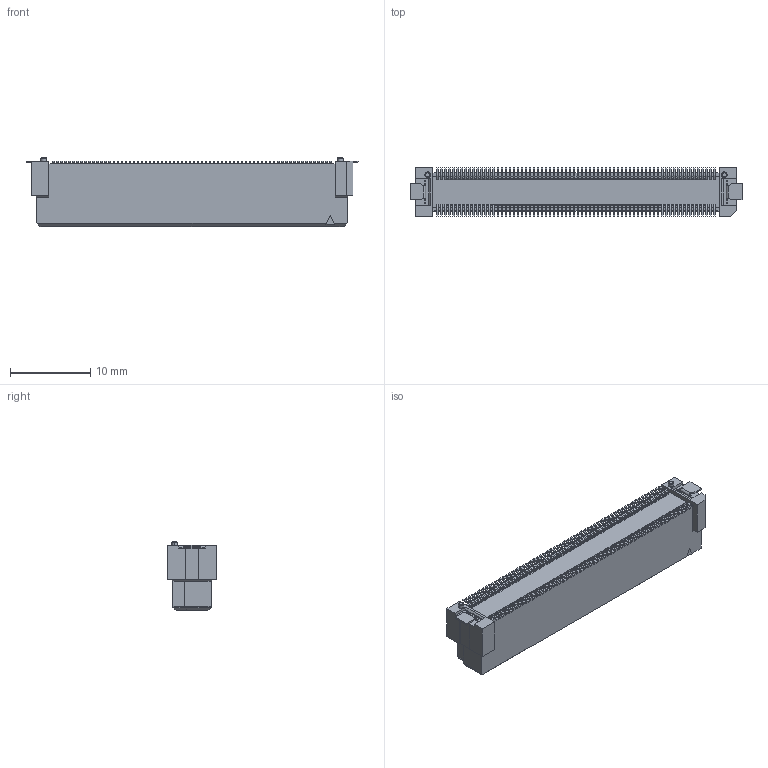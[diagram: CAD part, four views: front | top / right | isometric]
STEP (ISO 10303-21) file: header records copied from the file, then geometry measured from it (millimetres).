
FILE_DESCRIPTION(('Creo Elements/Direct Modeling STEP Export'),'2;1');
FILE_NAME('P3D070_DT11-140S-10-T.stp','2017-08-11T10:52:01',(''),(''),'Creo Elements/Direct Modeling STEP processor for AP214 (Solid Model)','Creo Elements/Direct Modeling 19.0F 14-Feb-2017 (C) Parametric Technology GmbH','');
FILE_SCHEMA(('AUTOMOTIVE_DESIGN { 1 0 10303 214 1 1 1 1 }'));
Products named in the file (2): DT11-140S-10-T
Assembly tree (1 placements, depth 2):
  DT11-140S-10-T
    DT11-140S-10-T
Bounding box: 41.4 x 6.2 x 8.63 mm (x, y, z)
Volume: 1278.7 mm3; surface area: 2238.2 mm2
Topology: 1 solids, 1 shells, 4901 faces, 13864 edges, 9250 vertices
Faces by surface type: plane 4181, cylinder 716, cone 4
Entity records: 155277 total; most frequent: ORIENTED_EDGE 27728, CARTESIAN_POINT 27598, DIRECTION 24825, EDGE_CURVE 13864, VECTOR 11871, LINE 11871, VERTEX_POINT 9250, AXIS2_PLACEMENT_3D 6477
